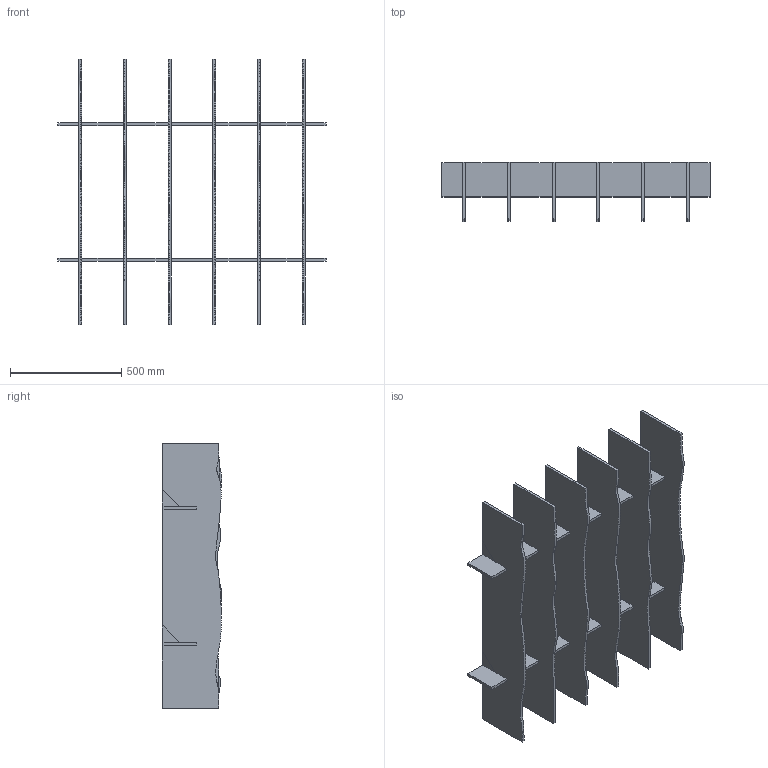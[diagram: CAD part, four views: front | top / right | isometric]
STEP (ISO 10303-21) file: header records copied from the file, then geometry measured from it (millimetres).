
FILE_DESCRIPTION(/* description */ (''),/* implementation_level */ '2;1');
FILE_NAME(/* name */ 'Y:\Design and Engineering\MaterialLogiq\CAD ASSETS\MASTER\BAFFLE\WEB ASSETS\PET BAFFLE_6FIN_4x4_10_JITTER.stp',/* time_stamp */ '2023-11-16T10:07:46-06:00',/* author */ ('Grant Baker'),/* organization */ (''),/* preprocessor_version */ 'ST-DEVELOPER v19',/* originating_system */ 'Autodesk Inventor 2023',/* authorisation */ '');
FILE_SCHEMA (('AUTOMOTIVE_DESIGN { 1 0 10303 214 3 1 1 }'));
Length unit declared in the file: inch
Products named in the file (5): PET BAFFLE_PARAMETRIC_11.02.2023; PET BAFFLE_BEAM; PET BAFFLE_48in_FIN_JITTER-1; PET BAFFLE_48in_FIN_JITTER-2; PET BAFFLE_48in_FIN_JITTER-3
Assembly tree (8 placements, depth 2):
  PET BAFFLE_PARAMETRIC_11.02.2023
    PET BAFFLE_BEAM  x2
    PET BAFFLE_48in_FIN_JITTER-1  x2
    PET BAFFLE_48in_FIN_JITTER-2  x2
    PET BAFFLE_48in_FIN_JITTER-3  x2
Bounding box: 1206.5 x 267.41 x 1193.8 mm (x, y, z)
Volume: 26578330.7 mm3; surface area: 4697715.6 mm2
Topology: 22 solids, 22 shells, 1234 faces, 3570 edges, 2380 vertices
Faces by surface type: plane 1234
Entity records: 20069 total; most frequent: CARTESIAN_POINT 3605, ORIENTED_EDGE 3570, DIRECTION 3045, LINE 1785, VECTOR 1785, EDGE_CURVE 1785, VERTEX_POINT 1190, AXIS2_PLACEMENT_3D 630
